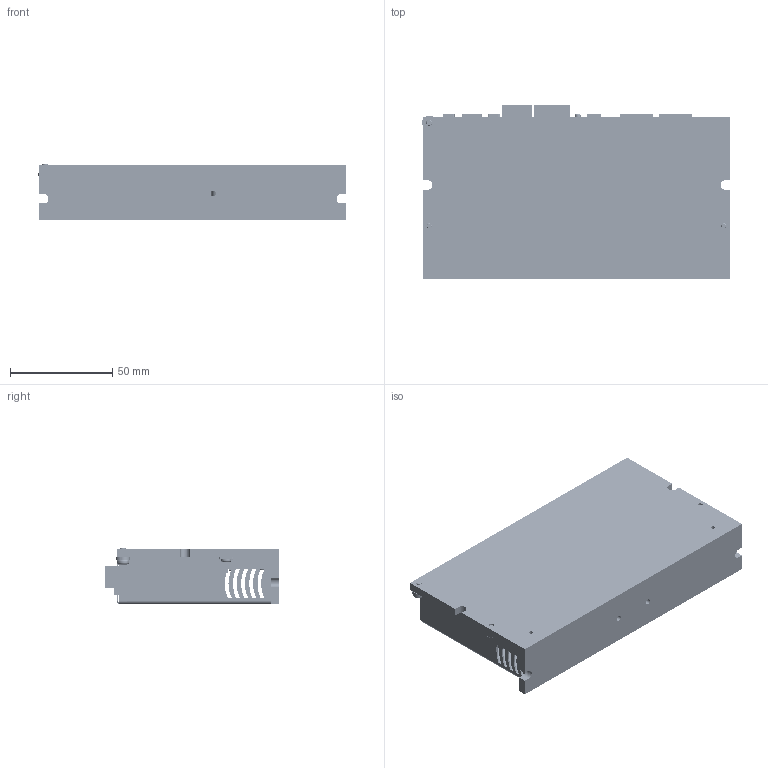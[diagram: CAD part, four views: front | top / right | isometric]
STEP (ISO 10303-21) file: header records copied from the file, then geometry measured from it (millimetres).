
FILE_DESCRIPTION((''),'2;1');
FILE_NAME('SW4D_PMD00_ASM','2020-12-03T15:30:17',('Matteo Maccalli'),(''),'CREO PARAMETRIC BY PTC INC, 2019344','CREO PARAMETRIC BY PTC INC, 2019344','');
FILE_SCHEMA(('AUTOMOTIVE_DESIGN { 1 0 10303 214 1 1 1 1 }'));
Products named in the file (94): ESTRUSO_SW4D_PMD00; FASTENINGS_M2_5X7MM_OK; ESTRUSO_SW4D_PMD00_INS_ASM; AD_01095_SW4D_PMD00; OPEN_CASCADE_STEP_TRANSLATO-154; BOARD_ASM; CAP_ELECTRO_12_5X20X5_0MM_ORIZ; CE202_ASM; SAMTEC-FTSH-110-01-L-DV-K; J1000_ASM; BODY; PINSARRAYLR_1; PINSARRAYLR_2; PINSARRAYLR_3; PINSARRAYLR_4; PINSARRAYLR_5; PINSARRAYLR_6; PINSARRAYLR_7; PINSARRAYLR_8; PINSARRAYLR_ASM; SST26VF064B-104I_SM_ASM; U1000_ASM; USER_LIBRARY-VFBGA90-1; U900_ASM; EXTRUDED; 6676024992_ASM; CE800_ASM; J0011D01BNL; CN5A_ASM; DINKLE_0156-1512; CN3_ASM; OPEN_CASCADE_STEP_TRANSLA-56386; OPEN_CASCADE_STEP_TRANSLA-59036; MOLEX_039300020_ASM; CN1_ASM; DINKLE_0156-1510_COLORATO; CN4_ASM; LHEF13-V1A_01; T200_ASM; LED_HSMX-C680_1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
Assembly tree (169 placements, depth 7):
  SW4D_PMD00_ASM
    ESTRUSO_SW4D_PMD00_INS_ASM
      ESTRUSO_SW4D_PMD00
      FASTENINGS_M2_5X7MM_OK  x2
    AD_01095_SW4D_PMD00
    PMD00-00_RIDOTTO_ASM
      PCB_ASM
        BOARD_ASM
          OPEN_CASCADE_STEP_TRANSLATO-154
        CE202_ASM
          CAP_ELECTRO_12_5X20X5_0MM_ORIZ
        J1000_ASM
          SAMTEC-FTSH-110-01-L-DV-K
        U1000_ASM
          SST26VF064B-104I_SM_ASM
            BODY
            PINSARRAYLR_ASM
              PINSARRAYLR_1
              PINSARRAYLR_2
              PINSARRAYLR_3
              PINSARRAYLR_4
              PINSARRAYLR_5
              PINSARRAYLR_6
              PINSARRAYLR_7
              PINSARRAYLR_8
        U900_ASM
          USER_LIBRARY-VFBGA90-1
        CE800_ASM
          6676024992_ASM
            EXTRUDED
        CN5A_ASM
          J0011D01BNL
        CN3_ASM
          DINKLE_0156-1512
        CN1_ASM
          MOLEX_039300020_ASM
            OPEN_CASCADE_STEP_TRANSLA-56386
            OPEN_CASCADE_STEP_TRANSLA-59036
        CN4_ASM
          DINKLE_0156-1510_COLORATO
        T200_ASM
          LHEF13-V1A_01
        LED1002_ASM
          LED_HSMX-C680_ASM
            LED_HSMX-C680_1
            LED_HSMX-C680_2
            LED_HSMX-C680_3
            LED_HSMX-C680_4
        LED1001_ASM
          LED_HSMX-C680_ASM
            LED_HSMX-C680_1
            LED_HSMX-C680_2
            LED_HSMX-C680_3
            LED_HSMX-C680_4
        LED403_ASM
          LED_0805
        LED402_ASM
          LED_0805
        LED401_ASM
          LED_0805
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Bounding box: 150.7 x 85.25 x 27.54 mm (x, y, z)
Volume: 109571 mm3; surface area: 110580 mm2
Topology: 121 solids, 132 shells, 9816 faces, 23356 edges, 13972 vertices
Faces by surface type: plane 4591, cylinder 3039, bspline 984, sphere 586, torus 582, cone 34
Entity records: 232354 total; most frequent: CARTESIAN_POINT 57593, DIRECTION 30054, ORIENTED_EDGE 28216, EDGE_CURVE 14178, AXIS2_PLACEMENT_3D 10761, VERTEX_POINT 9063, PRESENTATION_STYLE_ASSIGNMENT 8645, VECTOR 8532
